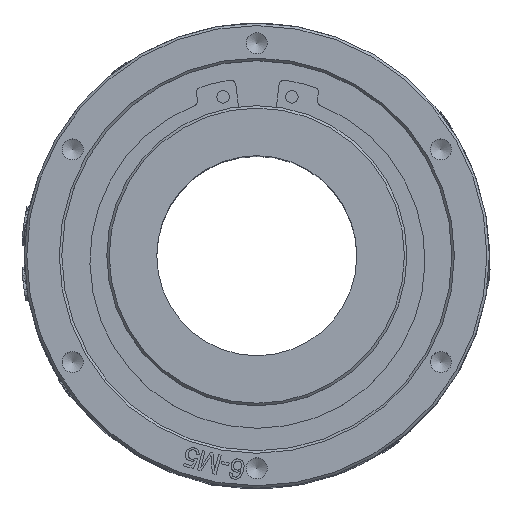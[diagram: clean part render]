
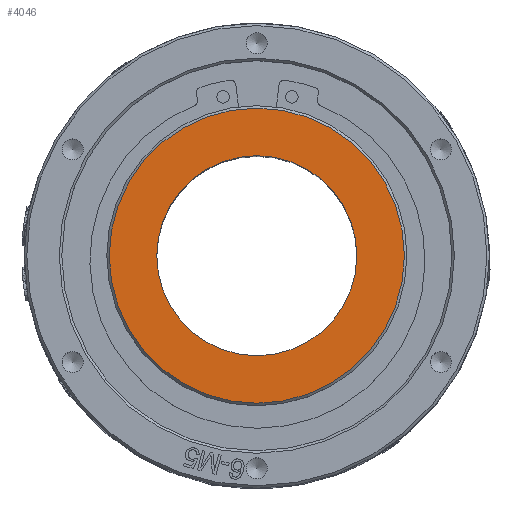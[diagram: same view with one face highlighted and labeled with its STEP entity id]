
A CAD part, top view. The second image highlights one B-rep face of the part: STEP entity #4046.
In plain terms, the highlighted planar face has unit normal (0, 0, 1).
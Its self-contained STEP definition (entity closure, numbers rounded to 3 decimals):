
#449=FACE_BOUND('',#7443,.T.);
#450=FACE_BOUND('',#7444,.T.);
#581=CIRCLE('',#26278,20.);
#656=CIRCLE('',#26440,29.5);
#4046=ADVANCED_FACE('',(#449,#450),#5022,.T.);
#5022=PLANE('',#26441);
#7443=EDGE_LOOP('',(#12276));
#7444=EDGE_LOOP('',(#12277));
#12276=ORIENTED_EDGE('',*,*,#20443,.T.);
#12277=ORIENTED_EDGE('',*,*,#20880,.T.);
#17193=VERTEX_POINT('',#43824);
#17628=VERTEX_POINT('',#45479);
#20443=EDGE_CURVE('',#17193,#17193,#581,.T.);
#20880=EDGE_CURVE('',#17628,#17628,#656,.T.);
#26278=AXIS2_PLACEMENT_3D('',#43823,#28342,#28343);
#26440=AXIS2_PLACEMENT_3D('',#45478,#28818,#28819);
#26441=AXIS2_PLACEMENT_3D('',#45480,#28820,#28821);
#28342=DIRECTION('',(0.,0.,-1.));
#28343=DIRECTION('',(-1.,0.,0.));
#28818=DIRECTION('',(0.,0.,1.));
#28819=DIRECTION('',(1.,0.,0.));
#28820=DIRECTION('',(0.,0.,1.));
#28821=DIRECTION('',(1.,0.,0.));
#43823=CARTESIAN_POINT('',(0.,0.,
88.5));
#43824=CARTESIAN_POINT('',(-20.,0.,88.5));
#45478=CARTESIAN_POINT('',(0.,0.,
88.5));
#45479=CARTESIAN_POINT('',(29.5,0.,88.5));
#45480=CARTESIAN_POINT('',(0.,0.,
88.5));
